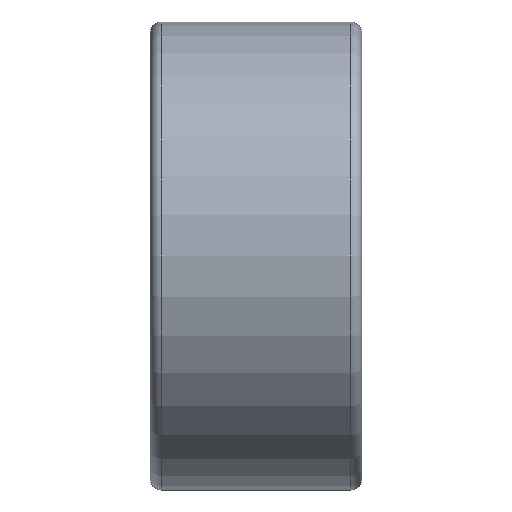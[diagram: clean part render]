
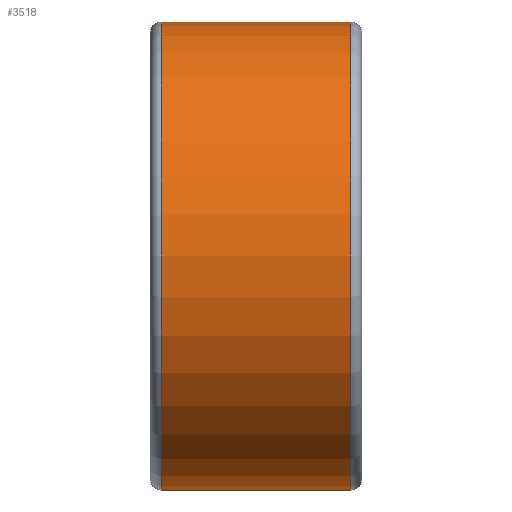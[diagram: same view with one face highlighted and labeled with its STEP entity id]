
A CAD part, front view. The second image highlights one B-rep face of the part: STEP entity #3518.
In plain terms, the highlighted cylindrical face has radius 21 mm (diameter 42 mm), a full revolution.
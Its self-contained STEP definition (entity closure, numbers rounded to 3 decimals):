
#500=FACE_OUTER_BOUND('',#696,.T.);
#696=EDGE_LOOP('',(#3250,#3251,#3252,#3253,#3254,#3255,#3256,#3257));
#1058=CIRCLE('',#3874,21.);
#1059=CIRCLE('',#3875,21.);
#1061=CIRCLE('',#3877,21.);
#1062=CIRCLE('',#3879,21.);
#1063=CIRCLE('',#3880,21.);
#1064=CIRCLE('',#3881,21.);
#1225=LINE('',#11152,#1376);
#1376=VECTOR('',#4617,21.);
#1701=VERTEX_POINT('',#11139);
#1702=VERTEX_POINT('',#11140);
#1703=VERTEX_POINT('',#11142);
#1704=VERTEX_POINT('',#11147);
#1705=VERTEX_POINT('',#11148);
#1706=VERTEX_POINT('',#11150);
#2220=EDGE_CURVE('',#1701,#1702,#1058,.T.);
#2221=EDGE_CURVE('',#1702,#1703,#1059,.T.);
#2223=EDGE_CURVE('',#1703,#1701,#1061,.T.);
#2224=EDGE_CURVE('',#1704,#1705,#1062,.T.);
#2225=EDGE_CURVE('',#1706,#1704,#1063,.T.);
#2226=EDGE_CURVE('',#1706,#1702,#1225,.T.);
#2227=EDGE_CURVE('',#1705,#1706,#1064,.T.);
#3250=ORIENTED_EDGE('',*,*,#2224,.F.);
#3251=ORIENTED_EDGE('',*,*,#2225,.F.);
#3252=ORIENTED_EDGE('',*,*,#2226,.T.);
#3253=ORIENTED_EDGE('',*,*,#2220,.F.);
#3254=ORIENTED_EDGE('',*,*,#2223,.F.);
#3255=ORIENTED_EDGE('',*,*,#2221,.F.);
#3256=ORIENTED_EDGE('',*,*,#2226,.F.);
#3257=ORIENTED_EDGE('',*,*,#2227,.F.);
#3328=CYLINDRICAL_SURFACE('',#3878,21.);
#3518=ADVANCED_FACE('',(#500),#3328,.T.);
#3874=AXIS2_PLACEMENT_3D('',#11141,#4603,#4604);
#3875=AXIS2_PLACEMENT_3D('',#11143,#4605,#4606);
#3877=AXIS2_PLACEMENT_3D('',#11145,#4609,#4610);
#3878=AXIS2_PLACEMENT_3D('',#11146,#4611,#4612);
#3879=AXIS2_PLACEMENT_3D('',#11149,#4613,#4614);
#3880=AXIS2_PLACEMENT_3D('',#11151,#4615,#4616);
#3881=AXIS2_PLACEMENT_3D('',#11153,#4618,#4619);
#4603=DIRECTION('center_axis',(-1.,0.,0.));
#4604=DIRECTION('ref_axis',(0.,-1.,0.));
#4605=DIRECTION('center_axis',(-1.,0.,0.));
#4606=DIRECTION('ref_axis',(0.,-1.,0.));
#4609=DIRECTION('center_axis',(-1.,0.,0.));
#4610=DIRECTION('ref_axis',(0.,-1.,0.));
#4611=DIRECTION('center_axis',(1.,0.,0.));
#4612=DIRECTION('ref_axis',(0.,1.,0.));
#4613=DIRECTION('center_axis',(1.,0.,0.));
#4614=DIRECTION('ref_axis',(0.,-1.,0.));
#4615=DIRECTION('center_axis',(1.,0.,0.));
#4616=DIRECTION('ref_axis',(0.,-1.,0.));
#4617=DIRECTION('',(-1.,0.,0.));
#4618=DIRECTION('center_axis',(1.,0.,0.));
#4619=DIRECTION('ref_axis',(0.,-1.,0.));
#11139=CARTESIAN_POINT('',(-8.5,21.,0.));
#11140=CARTESIAN_POINT('',(-8.5,-21.,0.));
#11141=CARTESIAN_POINT('Origin',(-8.5,0.,0.));
#11142=CARTESIAN_POINT('',(-8.5,0.,21.));
#11143=CARTESIAN_POINT('Origin',(-8.5,0.,0.));
#11145=CARTESIAN_POINT('Origin',(-8.5,0.,0.));
#11146=CARTESIAN_POINT('Origin',(0.,0.,
0.));
#11147=CARTESIAN_POINT('',(8.5,21.,0.));
#11148=CARTESIAN_POINT('',(8.5,0.,21.));
#11149=CARTESIAN_POINT('Origin',(8.5,0.,0.));
#11150=CARTESIAN_POINT('',(8.5,-21.,0.));
#11151=CARTESIAN_POINT('Origin',(8.5,0.,0.));
#11152=CARTESIAN_POINT('',(0.,-21.,0.));
#11153=CARTESIAN_POINT('Origin',(8.5,0.,0.));
